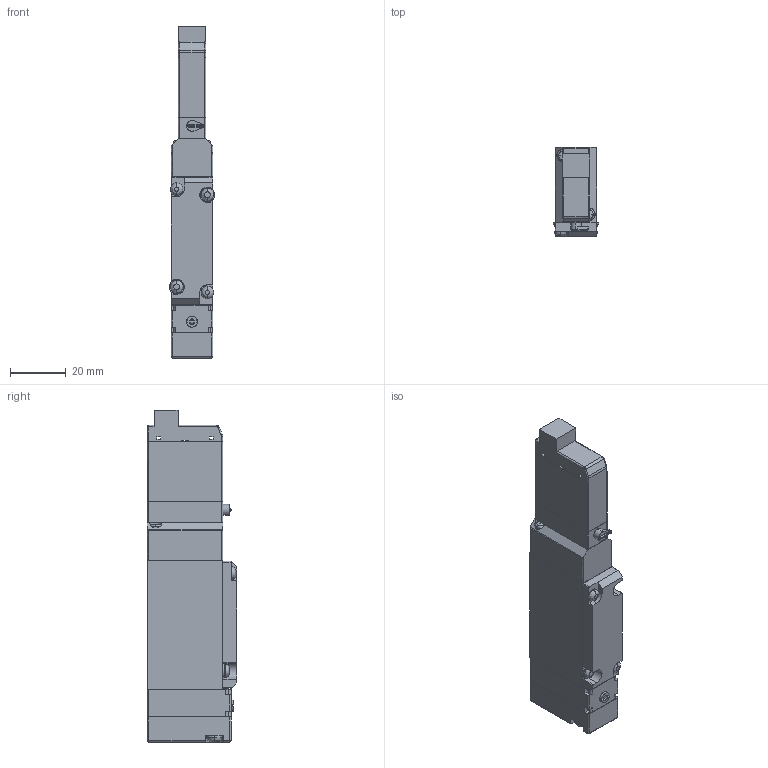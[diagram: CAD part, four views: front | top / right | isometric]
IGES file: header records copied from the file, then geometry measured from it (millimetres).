
Start section: ------------------------------------------------------------------------
Global section: file name: D:\ICADMX\tmp\trans3d_spg\CVICAD02.7120.F15T2-R-A1-PN_17122.igs; native system: spGate; preprocessor: ver12.6.6; author: Unknown; organization: Unknown; date: 210712.185031; units: millimetre
Bounding box: 16.2 x 32 x 119 mm (x, y, z)
Volume: 44619.3 mm3; surface area: 17180 mm2
Topology: 7 solids, 7 shells, 322 faces, 820 edges, 517 vertices
Faces by surface type: bspline 322
